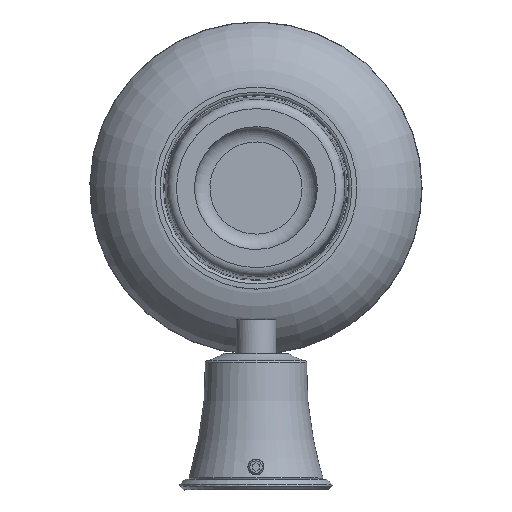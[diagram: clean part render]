
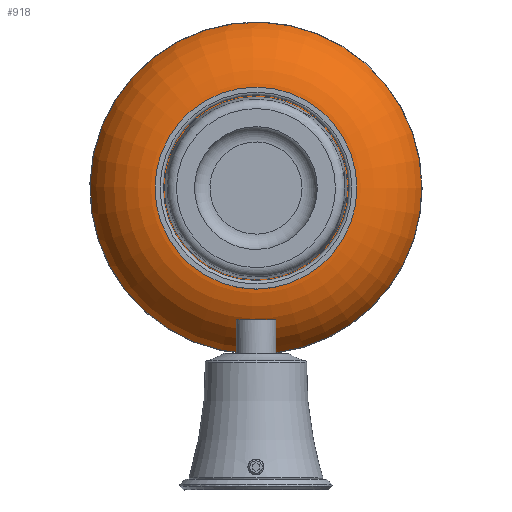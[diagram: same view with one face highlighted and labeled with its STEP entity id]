
A CAD part, front view. The second image highlights one B-rep face of the part: STEP entity #918.
In plain terms, the highlighted toroidal (fillet/blend) face has major radius 29.75 mm and minor radius 25.939 mm.
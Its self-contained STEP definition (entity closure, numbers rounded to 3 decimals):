
#115=TOROIDAL_SURFACE('',#1026,29.75,25.939);
#138=FACE_OUTER_BOUND('',#188,.T.);
#188=EDGE_LOOP('',(#680,#681,#682,#683,#684,#685,#686,#687));
#270=CIRCLE('',#1023,53.997);
#271=CIRCLE('',#1024,53.997);
#272=CIRCLE('',#1025,53.997);
#273=CIRCLE('',#1027,25.939);
#274=CIRCLE('',#1028,29.75);
#275=CIRCLE('',#1029,29.75);
#276=CIRCLE('',#1030,29.75);
#371=VERTEX_POINT('',#1560);
#372=VERTEX_POINT('',#1562);
#373=VERTEX_POINT('',#1564);
#374=VERTEX_POINT('',#1568);
#375=VERTEX_POINT('',#1570);
#376=VERTEX_POINT('',#1572);
#490=EDGE_CURVE('',#371,#372,#270,.T.);
#491=EDGE_CURVE('',#372,#373,#271,.T.);
#492=EDGE_CURVE('',#373,#371,#272,.T.);
#493=EDGE_CURVE('',#371,#374,#273,.T.);
#494=EDGE_CURVE('',#374,#375,#274,.T.);
#495=EDGE_CURVE('',#375,#376,#275,.T.);
#496=EDGE_CURVE('',#376,#374,#276,.T.);
#680=ORIENTED_EDGE('',*,*,#492,.F.);
#681=ORIENTED_EDGE('',*,*,#491,.F.);
#682=ORIENTED_EDGE('',*,*,#490,.F.);
#683=ORIENTED_EDGE('',*,*,#493,.T.);
#684=ORIENTED_EDGE('',*,*,#494,.T.);
#685=ORIENTED_EDGE('',*,*,#495,.T.);
#686=ORIENTED_EDGE('',*,*,#496,.T.);
#687=ORIENTED_EDGE('',*,*,#493,.F.);
#918=ADVANCED_FACE('',(#138),#115,.T.);
#1023=AXIS2_PLACEMENT_3D('',#1563,#1237,#1238);
#1024=AXIS2_PLACEMENT_3D('',#1565,#1239,#1240);
#1025=AXIS2_PLACEMENT_3D('',#1566,#1241,#1242);
#1026=AXIS2_PLACEMENT_3D('',#1567,#1243,#1244);
#1027=AXIS2_PLACEMENT_3D('',#1569,#1245,#1246);
#1028=AXIS2_PLACEMENT_3D('',#1571,#1247,#1248);
#1029=AXIS2_PLACEMENT_3D('',#1573,#1249,#1250);
#1030=AXIS2_PLACEMENT_3D('',#1574,#1251,#1252);
#1237=DIRECTION('center_axis',(0.,1.,0.));
#1238=DIRECTION('ref_axis',(0.033,0.,0.999));
#1239=DIRECTION('center_axis',(0.,1.,0.));
#1240=DIRECTION('ref_axis',(-0.033,0.,-0.999));
#1241=DIRECTION('center_axis',(0.,1.,0.));
#1242=DIRECTION('ref_axis',(0.033,0.,0.999));
#1243=DIRECTION('center_axis',(0.,1.,0.));
#1244=DIRECTION('ref_axis',(-1.,0.,0.));
#1245=DIRECTION('center_axis',(0.,0.,
-1.));
#1246=DIRECTION('ref_axis',(1.,0.,0.));
#1247=DIRECTION('center_axis',(0.,1.,0.));
#1248=DIRECTION('ref_axis',(0.033,0.,0.999));
#1249=DIRECTION('center_axis',(0.,1.,0.));
#1250=DIRECTION('ref_axis',(0.033,0.,0.999));
#1251=DIRECTION('center_axis',(0.,1.,0.));
#1252=DIRECTION('ref_axis',(0.033,0.,0.999));
#1560=CARTESIAN_POINT('',(56.297,23.873,90.9));
#1562=CARTESIAN_POINT('',(0.504,23.873,36.933));
#1563=CARTESIAN_POINT('Origin',(2.3,23.873,90.9));
#1564=CARTESIAN_POINT('',(4.096,23.873,144.867));
#1565=CARTESIAN_POINT('Origin',(2.3,23.873,90.9));
#1566=CARTESIAN_POINT('Origin',(2.3,23.873,90.9));
#1567=CARTESIAN_POINT('Origin',(2.3,33.089,90.9));
#1568=CARTESIAN_POINT('',(32.05,7.15,90.9));
#1569=CARTESIAN_POINT('Origin',(32.05,33.089,90.9));
#1570=CARTESIAN_POINT('',(1.311,7.15,61.166));
#1571=CARTESIAN_POINT('Origin',(2.3,7.15,90.9));
#1572=CARTESIAN_POINT('',(20.577,7.15,114.373));
#1573=CARTESIAN_POINT('Origin',(2.3,7.15,90.9));
#1574=CARTESIAN_POINT('Origin',(2.3,7.15,90.9));
